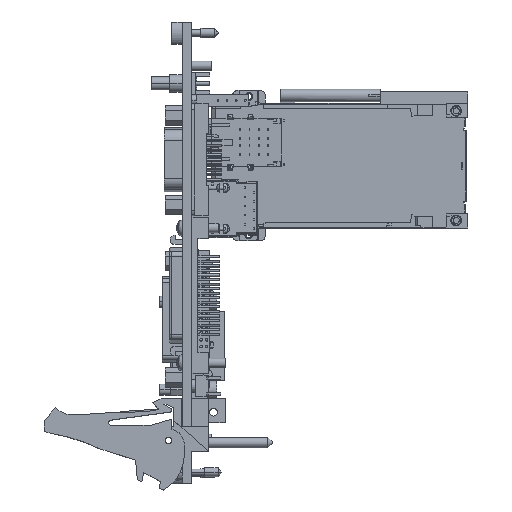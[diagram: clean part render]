
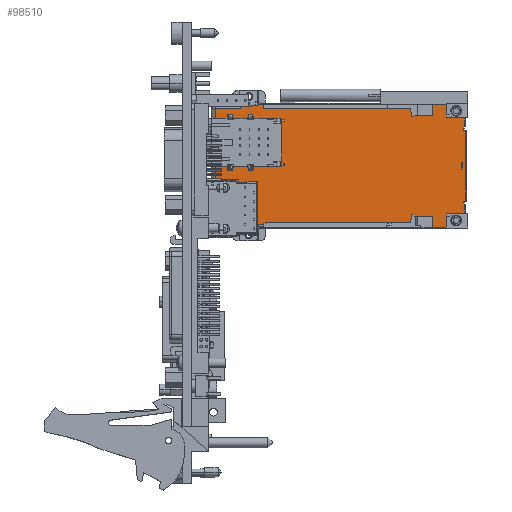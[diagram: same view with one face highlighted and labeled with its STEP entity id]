
A CAD part, top view. The second image highlights one B-rep face of the part: STEP entity #98510.
In plain terms, the highlighted planar face has unit normal (0, 0, 1).
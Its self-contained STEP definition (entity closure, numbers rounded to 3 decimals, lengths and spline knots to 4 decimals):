
#92587=DIRECTION('',(-1.,0.,0.));
#92588=VECTOR('',#92587,2.5157);
#92589=CARTESIAN_POINT('',(2.6942,-0.3327,
-2.2526));
#92590=LINE('',#92589,#92588);
#92885=DIRECTION('',(0.,-1.,0.));
#92886=VECTOR('',#92885,0.1467);
#92887=CARTESIAN_POINT('',(2.6942,-0.3327,
-2.2526));
#92888=LINE('',#92887,#92886);
#92889=DIRECTION('',(0.,-1.,0.));
#92890=VECTOR('',#92889,0.0994);
#92891=CARTESIAN_POINT('',(2.893,-0.4794,
-2.2526));
#92892=LINE('',#92891,#92890);
#92893=DIRECTION('',(1.,0.,0.));
#92894=VECTOR('',#92893,0.002);
#92895=CARTESIAN_POINT('',(2.893,-0.5788,
-2.2526));
#92896=LINE('',#92895,#92894);
#92897=DIRECTION('',(0.,1.,0.));
#92898=VECTOR('',#92897,0.0199);
#92899=CARTESIAN_POINT('',(2.8949,-0.5987,
-2.2526));
#92900=LINE('',#92899,#92898);
#92901=CARTESIAN_POINT('',(2.8969,-0.6083,
-2.2526));
#92902=DIRECTION('',(0.,0.,-1.));
#92903=DIRECTION('',(0.,-1.,0.));
#92904=AXIS2_PLACEMENT_3D('',#92901,#92902,#92903);
#92906=DIRECTION('',(-1.,0.,0.));
#92907=VECTOR('',#92906,0.0098);
#92908=CARTESIAN_POINT('',(2.9068,-0.6182,
-2.2526));
#92909=LINE('',#92908,#92907);
#92910=DIRECTION('',(1.,0.,0.));
#92911=VECTOR('',#92910,0.0098);
#92912=CARTESIAN_POINT('',(2.8969,-1.3977,
-2.2526));
#92913=LINE('',#92912,#92911);
#92914=CARTESIAN_POINT('',(2.8969,-1.4075,
-2.2526));
#92915=DIRECTION('',(0.,0.,-1.));
#92916=DIRECTION('',(-0.2,-0.98,0.));
#92917=AXIS2_PLACEMENT_3D('',#92914,#92915,#92916);
#92919=DIRECTION('',(0.,1.,0.));
#92920=VECTOR('',#92919,0.0199);
#92921=CARTESIAN_POINT('',(2.8949,-1.4371,
-2.2526));
#92922=LINE('',#92921,#92920);
#92923=DIRECTION('',(-1.,0.,0.));
#92924=VECTOR('',#92923,0.002);
#92925=CARTESIAN_POINT('',(2.8949,-1.4371,
-2.2526));
#92926=LINE('',#92925,#92924);
#92927=DIRECTION('',(0.,-1.,0.));
#92928=VECTOR('',#92927,0.0994);
#92929=CARTESIAN_POINT('',(2.893,-1.4371,
-2.2526));
#92930=LINE('',#92929,#92928);
#92931=DIRECTION('',(0.,-1.,0.));
#92932=VECTOR('',#92931,0.1467);
#92933=CARTESIAN_POINT('',(2.6942,-1.5365,
-2.2526));
#92934=LINE('',#92933,#92932);
#92935=DIRECTION('',(-1.,0.,0.));
#92936=VECTOR('',#92935,2.5157);
#92937=CARTESIAN_POINT('',(2.6942,-1.6831,
-2.2526));
#92938=LINE('',#92937,#92936);
#92939=DIRECTION('',(0.,-1.,0.));
#92940=VECTOR('',#92939,0.0157);
#92941=CARTESIAN_POINT('',(0.1784,-1.6674,
-2.2526));
#92942=LINE('',#92941,#92940);
#92943=DIRECTION('',(1.,0.,0.));
#92944=VECTOR('',#92943,0.0157);
#92945=CARTESIAN_POINT('',(0.1627,-1.6674,
-2.2526));
#92946=LINE('',#92945,#92944);
#92947=DIRECTION('',(0.,-1.,0.));
#92948=VECTOR('',#92947,1.3189);
#92949=CARTESIAN_POINT('',(0.1627,-0.3485,
-2.2526));
#92950=LINE('',#92949,#92948);
#92951=DIRECTION('',(-1.,0.,0.));
#92952=VECTOR('',#92951,0.0157);
#92953=CARTESIAN_POINT('',(0.1784,-0.3485,
-2.2526));
#92954=LINE('',#92953,#92952);
#92955=DIRECTION('',(0.,1.,0.));
#92956=VECTOR('',#92955,0.0787);
#92957=CARTESIAN_POINT('',(2.8674,-1.0473,
-2.2526));
#92958=LINE('',#92957,#92956);
#92959=DIRECTION('',(-1.,0.,0.));
#92960=VECTOR('',#92959,0.1988);
#92961=CARTESIAN_POINT('',(2.893,-0.4794,
-2.2526));
#92962=LINE('',#92961,#92960);
#93079=DIRECTION('',(1.,0.,0.));
#93080=VECTOR('',#93079,0.1988);
#93081=CARTESIAN_POINT('',(2.6942,-1.5365,
-2.2526));
#93082=LINE('',#93081,#93080);
#94979=DIRECTION('',(0.,1.,0.));
#94980=VECTOR('',#94979,0.0157);
#94981=CARTESIAN_POINT('',(0.1784,-0.3485,
-2.2526));
#94982=LINE('',#94981,#94980);
#95221=DIRECTION('',(0.,1.,0.));
#95222=VECTOR('',#95221,0.7795);
#95223=CARTESIAN_POINT('',(2.9068,-1.3977,
-2.2526));
#95224=LINE('',#95223,#95222);
#95249=DIRECTION('',(-1.,0.,0.));
#95250=VECTOR('',#95249,0.0098);
#95251=CARTESIAN_POINT('',(2.8772,-1.0473,
-2.2526));
#95252=LINE('',#95251,#95250);
#95277=DIRECTION('',(0.,1.,0.));
#95278=VECTOR('',#95277,0.0787);
#95279=CARTESIAN_POINT('',(2.8772,-1.0473,
-2.2526));
#95280=LINE('',#95279,#95278);
#95337=DIRECTION('',(1.,0.,0.));
#95338=VECTOR('',#95337,0.0098);
#95339=CARTESIAN_POINT('',(2.8674,-0.9685,
-2.2526));
#95340=LINE('',#95339,#95338);
#96720=CARTESIAN_POINT('',(2.8969,-1.3977,
-2.2526));
#96722=VERTEX_POINT('',#96720);
#96723=CARTESIAN_POINT('',(2.9068,-1.3977,
-2.2526));
#96724=VERTEX_POINT('',#96723);
#96743=CARTESIAN_POINT('',(0.1784,-0.3485,
-2.2526));
#96744=VERTEX_POINT('',#96743);
#96745=CARTESIAN_POINT('',(0.1627,-0.3485,
-2.2526));
#96746=VERTEX_POINT('',#96745);
#96755=CARTESIAN_POINT('',(2.8969,-0.6182,
-2.2526));
#96756=VERTEX_POINT('',#96755);
#96757=CARTESIAN_POINT('',(2.8949,-0.5987,
-2.2526));
#96758=VERTEX_POINT('',#96757);
#96773=CARTESIAN_POINT('',(2.8949,-1.4172,
-2.2526));
#96774=VERTEX_POINT('',#96773);
#96811=CARTESIAN_POINT('',(2.9068,-0.6182,
-2.2526));
#96813=VERTEX_POINT('',#96811);
#96827=CARTESIAN_POINT('',(0.1627,-1.6674,
-2.2526));
#96828=VERTEX_POINT('',#96827);
#96829=CARTESIAN_POINT('',(0.1784,-1.6674,
-2.2526));
#96831=VERTEX_POINT('',#96829);
#96849=CARTESIAN_POINT('',(0.1784,-1.6831,
-2.2526));
#96851=VERTEX_POINT('',#96849);
#97137=CARTESIAN_POINT('',(0.1784,-0.3327,
-2.2526));
#97138=VERTEX_POINT('',#97137);
#97412=CARTESIAN_POINT('',(2.893,-1.5365,
-2.2526));
#97414=VERTEX_POINT('',#97412);
#97419=CARTESIAN_POINT('',(2.893,-0.4794,
-2.2526));
#97421=VERTEX_POINT('',#97419);
#97627=CARTESIAN_POINT('',(2.8772,-1.0473,
-2.2526));
#97628=CARTESIAN_POINT('',(2.8674,-1.0473,
-2.2526));
#97629=VERTEX_POINT('',#97627);
#97630=VERTEX_POINT('',#97628);
#97631=CARTESIAN_POINT('',(2.8772,-0.9685,
-2.2526));
#97632=VERTEX_POINT('',#97631);
#97634=CARTESIAN_POINT('',(2.8949,-1.4371,
-2.2526));
#97636=VERTEX_POINT('',#97634);
#97782=CARTESIAN_POINT('',(2.8949,-0.5788,
-2.2526));
#97784=VERTEX_POINT('',#97782);
#97786=CARTESIAN_POINT('',(2.8674,-0.9685,
-2.2526));
#97787=VERTEX_POINT('',#97786);
#97932=CARTESIAN_POINT('',(2.893,-0.5788,
-2.2526));
#97933=VERTEX_POINT('',#97932);
#97934=CARTESIAN_POINT('',(2.893,-1.4371,
-2.2526));
#97935=VERTEX_POINT('',#97934);
#97978=CARTESIAN_POINT('',(2.6942,-1.5365,
-2.2526));
#97979=VERTEX_POINT('',#97978);
#97980=CARTESIAN_POINT('',(2.6942,-0.4794,
-2.2526));
#97981=VERTEX_POINT('',#97980);
#97982=CARTESIAN_POINT('',(2.6942,-0.3327,
-2.2526));
#97983=VERTEX_POINT('',#97982);
#97984=CARTESIAN_POINT('',(2.6942,-1.6831,
-2.2526));
#97985=VERTEX_POINT('',#97984);
#98453=CARTESIAN_POINT('',(1.5347,-1.0079,
-2.2526));
#98454=DIRECTION('',(0.,0.,-1.));
#98455=DIRECTION('',(0.,-1.,0.));
#98456=AXIS2_PLACEMENT_3D('',#98453,#98454,#98455);
#98457=PLANE('',#98456);
#98458=ORIENTED_EDGE('',*,*,#98129,.F.);
#98459=ORIENTED_EDGE('',*,*,#98205,.T.);
#98461=ORIENTED_EDGE('',*,*,#98460,.F.);
#98463=ORIENTED_EDGE('',*,*,#98462,.T.);
#98464=ORIENTED_EDGE('',*,*,#98441,.T.);
#98465=ORIENTED_EDGE('',*,*,#98430,.F.);
#98467=ORIENTED_EDGE('',*,*,#98466,.F.);
#98469=ORIENTED_EDGE('',*,*,#98468,.F.);
#98471=ORIENTED_EDGE('',*,*,#98470,.F.);
#98473=ORIENTED_EDGE('',*,*,#98472,.F.);
#98475=ORIENTED_EDGE('',*,*,#98474,.F.);
#98477=ORIENTED_EDGE('',*,*,#98476,.F.);
#98479=ORIENTED_EDGE('',*,*,#98478,.T.);
#98481=ORIENTED_EDGE('',*,*,#98480,.T.);
#98483=ORIENTED_EDGE('',*,*,#98482,.F.);
#98485=ORIENTED_EDGE('',*,*,#98484,.T.);
#98487=ORIENTED_EDGE('',*,*,#98486,.T.);
#98489=ORIENTED_EDGE('',*,*,#98488,.F.);
#98491=ORIENTED_EDGE('',*,*,#98490,.F.);
#98493=ORIENTED_EDGE('',*,*,#98492,.F.);
#98495=ORIENTED_EDGE('',*,*,#98494,.F.);
#98497=ORIENTED_EDGE('',*,*,#98496,.T.);
#98498=EDGE_LOOP('',(#98458,#98459,#98461,#98463,#98464,#98465,#98467,#98469,
#98471,#98473,#98475,#98477,#98479,#98481,#98483,#98485,#98487,#98489,#98491,
#98493,#98495,#98497));
#98499=FACE_OUTER_BOUND('',#98498,.F.);
#98501=ORIENTED_EDGE('',*,*,#98500,.F.);
#98503=ORIENTED_EDGE('',*,*,#98502,.F.);
#98505=ORIENTED_EDGE('',*,*,#98504,.T.);
#98507=ORIENTED_EDGE('',*,*,#98506,.F.);
#98508=EDGE_LOOP('',(#98501,#98503,#98505,#98507));
#98509=FACE_BOUND('',#98508,.F.);
#98510=ADVANCED_FACE('',(#98499,#98509),#98457,.F.);
#92905=CIRCLE('',#92904,0.0098);
#92918=CIRCLE('',#92917,0.0098);
#98129=EDGE_CURVE('',#97983,#97138,#92590,.T.);
#98205=EDGE_CURVE('',#97983,#97981,#92888,.T.);
#98430=EDGE_CURVE('',#96758,#97784,#92900,.T.);
#98441=EDGE_CURVE('',#97933,#97784,#92896,.T.);
#98460=EDGE_CURVE('',#97421,#97981,#92962,.T.);
#98462=EDGE_CURVE('',#97421,#97933,#92892,.T.);
#98466=EDGE_CURVE('',#96756,#96758,#92905,.T.);
#98468=EDGE_CURVE('',#96813,#96756,#92909,.T.);
#98470=EDGE_CURVE('',#96724,#96813,#95224,.T.);
#98472=EDGE_CURVE('',#96722,#96724,#92913,.T.);
#98474=EDGE_CURVE('',#96774,#96722,#92918,.T.);
#98476=EDGE_CURVE('',#97636,#96774,#92922,.T.);
#98478=EDGE_CURVE('',#97636,#97935,#92926,.T.);
#98480=EDGE_CURVE('',#97935,#97414,#92930,.T.);
#98482=EDGE_CURVE('',#97979,#97414,#93082,.T.);
#98484=EDGE_CURVE('',#97979,#97985,#92934,.T.);
#98486=EDGE_CURVE('',#97985,#96851,#92938,.T.);
#98488=EDGE_CURVE('',#96831,#96851,#92942,.T.);
#98490=EDGE_CURVE('',#96828,#96831,#92946,.T.);
#98492=EDGE_CURVE('',#96746,#96828,#92950,.T.);
#98494=EDGE_CURVE('',#96744,#96746,#92954,.T.);
#98496=EDGE_CURVE('',#96744,#97138,#94982,.T.);
#98500=EDGE_CURVE('',#97630,#97787,#92958,.T.);
#98502=EDGE_CURVE('',#97629,#97630,#95252,.T.);
#98504=EDGE_CURVE('',#97629,#97632,#95280,.T.);
#98506=EDGE_CURVE('',#97787,#97632,#95340,.T.);
